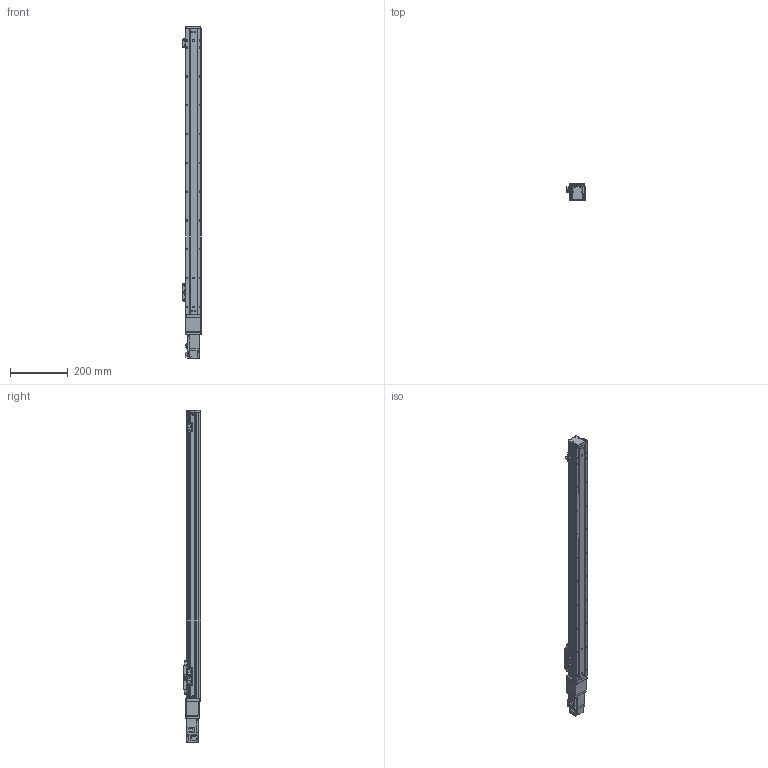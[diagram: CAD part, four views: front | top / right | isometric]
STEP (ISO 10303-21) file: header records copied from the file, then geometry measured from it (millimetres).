
FILE_DESCRIPTION (( 'STEP AP203' ), '1' );
FILE_NAME ('GTH5-850-BC-M10-C4.step', '2023-08-28T00:46:06', ( '微软用户' ), ( '微软中国' ), 'SwSTEP 2.0', 'SolidWorks 2020', '' );
FILE_SCHEMA (( 'CONFIG_CONTROL_DESIGN' ));
Length unit declared in the file: millimetre
Products named in the file (20): BTH-M3X5X6; GBT96.1-2002 3×0.8; CTHA60-006-2_CTHA60-006-1; GTH50-001_850; GTH50-024; HG-KR13; GBT 70.1-M4×16; GBT 70.1-M2.5×6; GTH5-850-BC-M10-C4; GTH50-003; GTH50-028; GTH50-006; GTH50-013; GTH50-022-1; GTH50-004; GTH50-023; CTHA60-027; GBT 70.3-M3℅6; GBT 70.1-M3℅6; CTHA60-013
Assembly tree (60 placements, depth 2):
  GTH5-850-BC-M10-C4
    GTH50-006
    GTH50-004
    GBT 70.3-M3℅6  x6
    BTH-M3X5X6  x8
    GTH50-001_850
    GBT 70.1-M4×16  x8
    GTH50-003
    GTH50-013
    GTH50-023  x3
    GBT 70.1-M3℅6  x12
    GBT96.1-2002 3×0.8  x6
    GTH50-024  x3
    GBT 70.1-M2.5×6  x2
    GTH50-028  x2
    GTH50-022-1
    CTHA60-027
    CTHA60-013
    CTHA60-006-2_CTHA60-006-1
    HG-KR13
Bounding box: 63.8 x 60 x 1152.6 mm (x, y, z)
Volume: 2384477.6 mm3; surface area: 357846.1 mm2
Topology: 62 solids, 62 shells, 2065 faces, 4752 edges, 2902 vertices
Faces by surface type: plane 1105, cylinder 559, cone 235, torus 158, sphere 8
Entity records: 34699 total; most frequent: DIRECTION 5619, CARTESIAN_POINT 5487, ORIENTED_EDGE 5190, EDGE_CURVE 2595, AXIS2_PLACEMENT_3D 1940, VECTOR 1739, LINE 1739, VERTEX_POINT 1642
